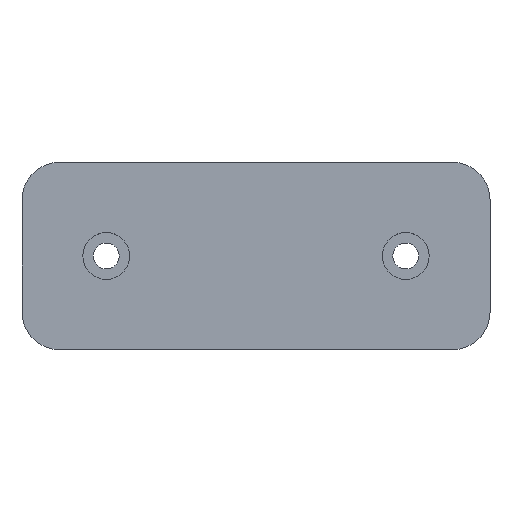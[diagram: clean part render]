
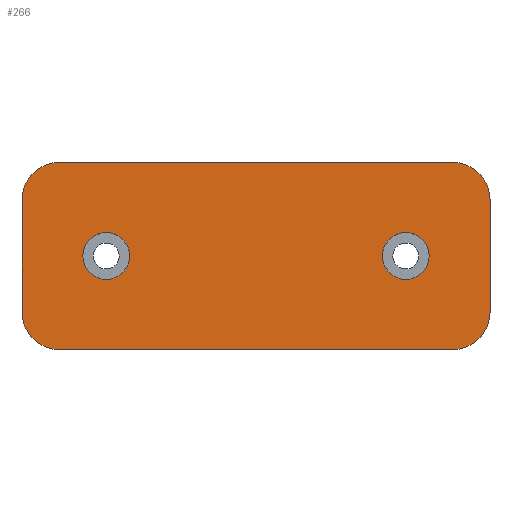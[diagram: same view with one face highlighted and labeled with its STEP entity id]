
A CAD part, top view. The second image highlights one B-rep face of the part: STEP entity #266.
In plain terms, the highlighted planar face has unit normal (0, 0, 1).
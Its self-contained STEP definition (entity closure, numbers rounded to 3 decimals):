
#3 = VERTEX_POINT ( 'NONE', #605 ) ;
#9 = EDGE_LOOP ( 'NONE', ( #447, #205 ) ) ;
#11 = CARTESIAN_POINT ( 'NONE',  ( -42., -12., 8.1 ) ) ;
#15 = EDGE_CURVE ( 'NONE', #252, #651, #199, .T. ) ;
#26 = EDGE_CURVE ( 'NONE', #73, #370, #63, .T. ) ;
#32 = DIRECTION ( 'NONE',  ( 1., 0., 0. ) ) ;
#34 = CARTESIAN_POINT ( 'NONE',  ( -32., 0., 8.1 ) ) ;
#48 = DIRECTION ( 'NONE',  ( 1., 0., 0. ) ) ;
#49 = EDGE_CURVE ( 'NONE', #3, #64, #550, .T. ) ;
#61 = EDGE_CURVE ( 'NONE', #735, #681, #172, .T. ) ;
#63 = CIRCLE ( 'NONE', #584, 8. ) ;
#64 = VERTEX_POINT ( 'NONE', #764 ) ;
#69 = LINE ( 'NONE', #553, #372 ) ;
#73 = VERTEX_POINT ( 'NONE', #319 ) ;
#78 = ORIENTED_EDGE ( 'NONE', *, *, #192, .T. ) ;
#79 = CARTESIAN_POINT ( 'NONE',  ( 42., 12., 8.1 ) ) ;
#92 = CARTESIAN_POINT ( 'NONE',  ( 32., 0., 8.1 ) ) ;
#121 = ORIENTED_EDGE ( 'NONE', *, *, #439, .F. ) ;
#132 = DIRECTION ( 'NONE',  ( 1., 0., 0. ) ) ;
#135 = CIRCLE ( 'NONE', #547, 8. ) ;
#143 = ORIENTED_EDGE ( 'NONE', *, *, #463, .T. ) ;
#149 = AXIS2_PLACEMENT_3D ( 'NONE', #34, #831, #436 ) ;
#168 = EDGE_CURVE ( 'NONE', #651, #252, #400, .T. ) ;
#172 = CIRCLE ( 'NONE', #210, 5. ) ;
#179 = DIRECTION ( 'NONE',  ( 1., 0., 0. ) ) ;
#192 = EDGE_CURVE ( 'NONE', #370, #703, #736, .T. ) ;
#199 = CIRCLE ( 'NONE', #393, 5. ) ;
#202 = VERTEX_POINT ( 'NONE', #580 ) ;
#205 = ORIENTED_EDGE ( 'NONE', *, *, #168, .F. ) ;
#208 = ORIENTED_EDGE ( 'NONE', *, *, #49, .T. ) ;
#210 = AXIS2_PLACEMENT_3D ( 'NONE', #683, #685, #48 ) ;
#240 = EDGE_CURVE ( 'NONE', #409, #3, #135, .T. ) ;
#244 = CIRCLE ( 'NONE', #830, 8. ) ;
#246 = EDGE_CURVE ( 'NONE', #703, #202, #244, .T. ) ;
#252 = VERTEX_POINT ( 'NONE', #592 ) ;
#266 = ADVANCED_FACE ( 'NONE', ( #622, #448, #557 ), #467, .T. ) ;
#278 = DIRECTION ( 'NONE',  ( 0., 0., 1. ) ) ;
#288 = AXIS2_PLACEMENT_3D ( 'NONE', #705, #520, #132 ) ;
#295 = DIRECTION ( 'NONE',  ( -1., 0., 0. ) ) ;
#306 = CARTESIAN_POINT ( 'NONE',  ( 27., 0., 8.1 ) ) ;
#319 = CARTESIAN_POINT ( 'NONE',  ( -42., 20., 8.1 ) ) ;
#325 = VECTOR ( 'NONE', #424, 1000. ) ;
#330 = DIRECTION ( 'NONE',  ( 0., -1., 0. ) ) ;
#332 = ORIENTED_EDGE ( 'NONE', *, *, #246, .T. ) ;
#335 = ORIENTED_EDGE ( 'NONE', *, *, #26, .T. ) ;
#356 = CARTESIAN_POINT ( 'NONE',  ( 50., -12., 8.1 ) ) ;
#370 = VERTEX_POINT ( 'NONE', #770 ) ;
#371 = EDGE_CURVE ( 'NONE', #202, #409, #478, .T. ) ;
#372 = VECTOR ( 'NONE', #295, 1000. ) ;
#393 = AXIS2_PLACEMENT_3D ( 'NONE', #92, #613, #32 ) ;
#398 = VECTOR ( 'NONE', #417, 1000. ) ;
#400 = CIRCLE ( 'NONE', #288, 5. ) ;
#406 = EDGE_CURVE ( 'NONE', #606, #73, #69, .T. ) ;
#409 = VERTEX_POINT ( 'NONE', #671 ) ;
#417 = DIRECTION ( 'NONE',  ( 1., 0., 0. ) ) ;
#421 = CARTESIAN_POINT ( 'NONE',  ( -42., 12., 8.1 ) ) ;
#424 = DIRECTION ( 'NONE',  ( 0., 1., 0. ) ) ;
#430 = ORIENTED_EDGE ( 'NONE', *, *, #406, .T. ) ;
#436 = DIRECTION ( 'NONE',  ( 1., 0., 0. ) ) ;
#439 = EDGE_CURVE ( 'NONE', #681, #735, #668, .T. ) ;
#447 = ORIENTED_EDGE ( 'NONE', *, *, #15, .F. ) ;
#448 = FACE_BOUND ( 'NONE', #488, .T. ) ;
#455 = CIRCLE ( 'NONE', #536, 8. ) ;
#456 = CARTESIAN_POINT ( 'NONE',  ( -37., 0., 8.1 ) ) ;
#458 = VECTOR ( 'NONE', #330, 1000. ) ;
#460 = DIRECTION ( 'NONE',  ( 1., 0., 0. ) ) ;
#463 = EDGE_CURVE ( 'NONE', #64, #606, #455, .T. ) ;
#467 = PLANE ( 'NONE',  #710 ) ;
#471 = ORIENTED_EDGE ( 'NONE', *, *, #371, .T. ) ;
#478 = LINE ( 'NONE', #669, #398 ) ;
#488 = EDGE_LOOP ( 'NONE', ( #121, #706 ) ) ;
#502 = ORIENTED_EDGE ( 'NONE', *, *, #240, .T. ) ;
#511 = DIRECTION ( 'NONE',  ( 0., 0., 1. ) ) ;
#520 = DIRECTION ( 'NONE',  ( 0., 0., 1. ) ) ;
#522 = CARTESIAN_POINT ( 'NONE',  ( -50., -12., 8.1 ) ) ;
#531 = DIRECTION ( 'NONE',  ( 0., 0., 1. ) ) ;
#536 = AXIS2_PLACEMENT_3D ( 'NONE', #819, #565, #626 ) ;
#545 = CARTESIAN_POINT ( 'NONE',  ( 42., 20., 8.1 ) ) ;
#547 = AXIS2_PLACEMENT_3D ( 'NONE', #719, #278, #460 ) ;
#550 = LINE ( 'NONE', #356, #325 ) ;
#553 = CARTESIAN_POINT ( 'NONE',  ( 42., 20., 8.1 ) ) ;
#557 = FACE_OUTER_BOUND ( 'NONE', #595, .T. ) ;
#565 = DIRECTION ( 'NONE',  ( 0., 0., 1. ) ) ;
#580 = CARTESIAN_POINT ( 'NONE',  ( -42., -20., 8.1 ) ) ;
#584 = AXIS2_PLACEMENT_3D ( 'NONE', #421, #511, #179 ) ;
#592 = CARTESIAN_POINT ( 'NONE',  ( 37., 0., 8.1 ) ) ;
#595 = EDGE_LOOP ( 'NONE', ( #143, #430, #335, #78, #332, #471, #502, #208 ) ) ;
#605 = CARTESIAN_POINT ( 'NONE',  ( 50., -12., 8.1 ) ) ;
#606 = VERTEX_POINT ( 'NONE', #545 ) ;
#613 = DIRECTION ( 'NONE',  ( 0., 0., 1. ) ) ;
#622 = FACE_BOUND ( 'NONE', #9, .T. ) ;
#626 = DIRECTION ( 'NONE',  ( 1., 0., 0. ) ) ;
#651 = VERTEX_POINT ( 'NONE', #306 ) ;
#658 = DIRECTION ( 'NONE',  ( -1., 0., 0. ) ) ;
#668 = CIRCLE ( 'NONE', #149, 5. ) ;
#669 = CARTESIAN_POINT ( 'NONE',  ( 42., -20., 8.1 ) ) ;
#671 = CARTESIAN_POINT ( 'NONE',  ( 42., -20., 8.1 ) ) ;
#681 = VERTEX_POINT ( 'NONE', #811 ) ;
#683 = CARTESIAN_POINT ( 'NONE',  ( -32., 0., 8.1 ) ) ;
#685 = DIRECTION ( 'NONE',  ( 0., 0., 1. ) ) ;
#703 = VERTEX_POINT ( 'NONE', #730 ) ;
#705 = CARTESIAN_POINT ( 'NONE',  ( 32., 0., 8.1 ) ) ;
#706 = ORIENTED_EDGE ( 'NONE', *, *, #61, .F. ) ;
#710 = AXIS2_PLACEMENT_3D ( 'NONE', #79, #531, #788 ) ;
#719 = CARTESIAN_POINT ( 'NONE',  ( 42., -12., 8.1 ) ) ;
#730 = CARTESIAN_POINT ( 'NONE',  ( -50., -12., 8.1 ) ) ;
#735 = VERTEX_POINT ( 'NONE', #456 ) ;
#736 = LINE ( 'NONE', #522, #458 ) ;
#764 = CARTESIAN_POINT ( 'NONE',  ( 50., 12., 8.1 ) ) ;
#770 = CARTESIAN_POINT ( 'NONE',  ( -50., 12., 8.1 ) ) ;
#788 = DIRECTION ( 'NONE',  ( 1., 0., 0. ) ) ;
#797 = DIRECTION ( 'NONE',  ( 0., 0., 1. ) ) ;
#811 = CARTESIAN_POINT ( 'NONE',  ( -27., 0., 8.1 ) ) ;
#819 = CARTESIAN_POINT ( 'NONE',  ( 42., 12., 8.1 ) ) ;
#830 = AXIS2_PLACEMENT_3D ( 'NONE', #11, #797, #658 ) ;
#831 = DIRECTION ( 'NONE',  ( 0., 0., 1. ) ) ;
